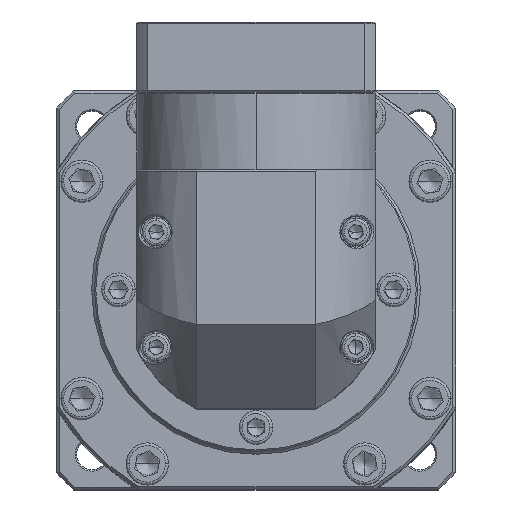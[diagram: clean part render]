
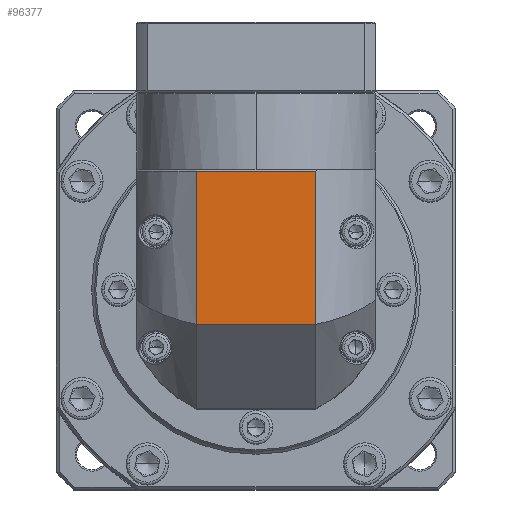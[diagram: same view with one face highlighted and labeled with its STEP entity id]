
A CAD part, top view. The second image highlights one B-rep face of the part: STEP entity #96377.
In plain terms, the highlighted planar face has unit normal (0, 0, 1).
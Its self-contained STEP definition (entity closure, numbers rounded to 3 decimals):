
#12787 = VECTOR ( 'NONE', #33659, 1000. ) ;
#13080 = VERTEX_POINT ( 'NONE', #133007 ) ;
#23351 = DIRECTION ( 'NONE',  ( 0., -1., 0. ) ) ;
#25267 = VERTEX_POINT ( 'NONE', #107597 ) ;
#29969 = EDGE_LOOP ( 'NONE', ( #121395, #106265, #67980, #137108 ) ) ;
#33659 = DIRECTION ( 'NONE',  ( -1., 0., 0. ) ) ;
#36459 = EDGE_CURVE ( 'NONE', #13080, #110520, #110735, .T. ) ;
#39943 = CARTESIAN_POINT ( 'NONE',  ( -178.101, 76.898, 72.891 ) ) ;
#41374 = VECTOR ( 'NONE', #91791, 1000. ) ;
#41402 = PLANE ( 'NONE',  #138952 ) ;
#42485 = DIRECTION ( 'NONE',  ( -1., 0., 0. ) ) ;
#44635 = CARTESIAN_POINT ( 'NONE',  ( -178.101, 118.898, 72.891 ) ) ;
#59247 = CARTESIAN_POINT ( 'NONE',  ( -199.314, 118.898, 72.891 ) ) ;
#63466 = VERTEX_POINT ( 'NONE', #89189 ) ;
#67609 = CARTESIAN_POINT ( 'NONE',  ( -156.888, 18.898, 72.891 ) ) ;
#67980 = ORIENTED_EDGE ( 'NONE', *, *, #92087, .F. ) ;
#72604 = LINE ( 'NONE', #67609, #81635 ) ;
#74620 = FACE_OUTER_BOUND ( 'NONE', #29969, .T. ) ;
#81635 = VECTOR ( 'NONE', #23351, 1000. ) ;
#89189 = CARTESIAN_POINT ( 'NONE',  ( -199.314, 64.398, 72.891 ) ) ;
#91791 = DIRECTION ( 'NONE',  ( 0., 1., 0. ) ) ;
#92087 = EDGE_CURVE ( 'NONE', #13080, #25267, #72604, .T. ) ;
#96377 = ADVANCED_FACE ( 'NONE', ( #74620 ), #41402, .T. ) ;
#106265 = ORIENTED_EDGE ( 'NONE', *, *, #144615, .F. ) ;
#107597 = CARTESIAN_POINT ( 'NONE',  ( -156.888, 64.398, 72.891 ) ) ;
#110520 = VERTEX_POINT ( 'NONE', #59247 ) ;
#110735 = LINE ( 'NONE', #44635, #12787 ) ;
#110878 = LINE ( 'NONE', #133202, #135959 ) ;
#114672 = CARTESIAN_POINT ( 'NONE',  ( -199.314, 18.898, 72.891 ) ) ;
#121395 = ORIENTED_EDGE ( 'NONE', *, *, #135100, .F. ) ;
#128746 = LINE ( 'NONE', #114672, #41374 ) ;
#133007 = CARTESIAN_POINT ( 'NONE',  ( -156.888, 118.898, 72.891 ) ) ;
#133202 = CARTESIAN_POINT ( 'NONE',  ( -178.101, 64.398, 72.891 ) ) ;
#135100 = EDGE_CURVE ( 'NONE', #63466, #110520, #128746, .T. ) ;
#135959 = VECTOR ( 'NONE', #42485, 1000. ) ;
#137108 = ORIENTED_EDGE ( 'NONE', *, *, #36459, .T. ) ;
#138952 = AXIS2_PLACEMENT_3D ( 'NONE', #39943, #142577, #144005 ) ;
#142577 = DIRECTION ( 'NONE',  ( 0., 0., 1. ) ) ;
#144005 = DIRECTION ( 'NONE',  ( 0., 1., 0. ) ) ;
#144615 = EDGE_CURVE ( 'NONE', #25267, #63466, #110878, .T. ) ;
